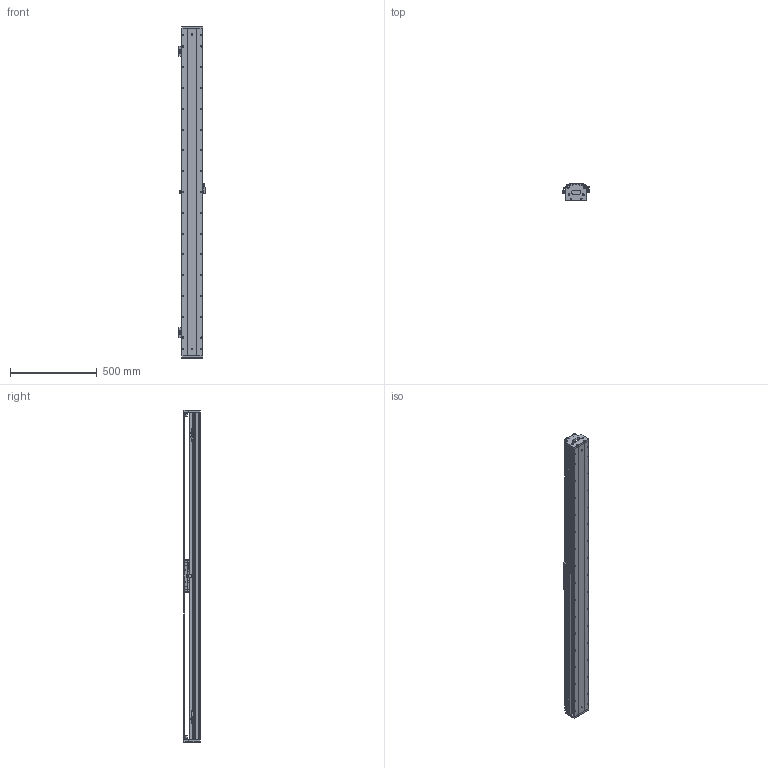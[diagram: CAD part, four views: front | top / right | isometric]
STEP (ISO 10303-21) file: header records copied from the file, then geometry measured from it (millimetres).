
FILE_DESCRIPTION (( 'STEP AP203' ), '1' );
FILE_NAME ('DKW119-C2-W060(T1620-L005-0.2).STEP', '2021-09-02T00:40:31', ( '微软用户' ), ( '微软中国' ), 'SwSTEP 2.0', 'SolidWorks 2018', '' );
FILE_SCHEMA (( 'CONFIG_CONTROL_DESIGN' ));
Length unit declared in the file: millimetre
Products named in the file (23): 嫖萇羲壽蚾饜极; 06652-0001-004-00 DKW120嶺輸菜輸; 嫖萇羲壽蚾饜极A; 12018-0001-002-00 詩湍; 12018-0001-001-00 菁釱; DKW-SG-GYP-H-00 嫖萇覜茼え; 砎蝶猾沭; MSB15-DG-U; RUS嫖掑喜; 12160-0000-003-00 DKW120詩湍嶺輸; DKW119-RU-DTJ-00 RU2黍杅芛盓殤; Ru2; 12160-0000-004-00  DKW120詩湍揤輸; 萇儂堤盄 ^DKW119-C2-W060(T1620-L005-0.2); RUS嫖掑郪璃; DKW119 单轴模组-拉钢带组件; CKMA01-W060-TRLxxx; CKM02-W060_00; pm-y65; DKW-HXJ-JY-00 遣喳砎蝶; DKW119-C2-W060(T1620-L005-0.2); 10980-0001-003-00 嫖萇羲壽嘐隅釱; 11062-0001-004-00 DKW119傷啣
Assembly tree (36 placements, depth 3):
  DKW119-C2-W060(T1620-L005-0.2)
    12018-0001-001-00 菁釱
    MSB15-DG-U  x2
    DKW119-RU-DTJ-00 RU2黍杅芛盓殤
    萇儂堤盄 ^DKW119-C2-W060(T1620-L005-0.2)
    CKMA01-W060-TRLxxx
    DKW119 单轴模组-拉钢带组件
      DKW-HXJ-JY-00 遣喳砎蝶  x4
      11062-0001-004-00 DKW119傷啣  x2
      06652-0001-004-00 DKW120嶺輸菜輸  x4
      12018-0001-002-00 詩湍
      砎蝶猾沭  x2
      12160-0000-003-00 DKW120詩湍嶺輸  x2
      12160-0000-004-00  DKW120詩湍揤輸  x2
    嫖萇羲壽蚾饜极
      pm-y65
      10980-0001-003-00 嫖萇羲壽嘐隅釱
    嫖萇羲壽蚾饜极A
      pm-y65  x2
      10980-0001-003-00 嫖萇羲壽嘐隅釱
    DKW-SG-GYP-H-00 嫖萇覜茼え
    RUS嫖掑郪璃
      RUS嫖掑喜
      Ru2
    CKM02-W060_00
Bounding box: 154.3 x 99 x 1916 mm (x, y, z)
Volume: 8256830.8 mm3; surface area: 2704543.8 mm2
Topology: 42 solids, 91 shells, 4286 faces, 11441 edges, 7298 vertices
Faces by surface type: plane 2134, cylinder 1491, cone 414, bspline 247
Entity records: 129424 total; most frequent: CARTESIAN_POINT 43405, ORIENTED_EDGE 17315, DIRECTION 16714, EDGE_CURVE 8698, VERTEX_POINT 5709, AXIS2_PLACEMENT_3D 5684, LINE 5346, VECTOR 5346
